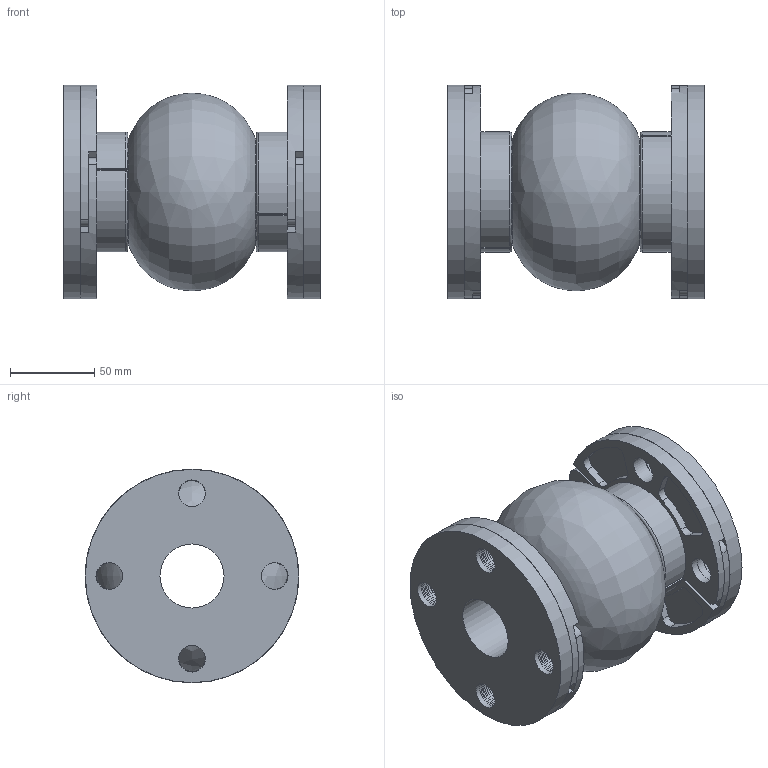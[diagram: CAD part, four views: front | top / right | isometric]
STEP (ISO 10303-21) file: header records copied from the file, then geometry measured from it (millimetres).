
FILE_DESCRIPTION((''),'2;1');
FILE_NAME('N:\StockJoints-ADSK, IGES, STEP, PNG\STEP\451 1.5x6 .stp','2013-05-22T16:36:37',('mquog'),(''),'Autodesk Inventor 2011','Autodesk Inventor 2011','');
FILE_SCHEMA(('AUTOMOTIVE_DESIGN { 1 0 10303 214 1 1 1 1 }'));
Length unit declared in the file: inch
Products named in the file (3): 451 1.5x6 ; Style451 1.5x6; 1.5DI450BUR150
Assembly tree (5 placements, depth 2):
  451 1.5x6 
    Style451 1.5x6
    1.5DI450BUR150  x4
Bounding box: 152.4 x 127 x 127 mm (x, y, z)
Volume: 835957.2 mm3; surface area: 921928.6 mm2
Topology: 16 solids, 16 shells, 330 faces, 790 edges, 514 vertices
Faces by surface type: cylinder 186, plane 94, torus 34, bspline 16
Full cylindrical faces by diameter (mm): 15.875 x68, 38.1 x2, 44.45 x4, 50.8 x8, 52.832 x4, 54.864 x4, 56.896 x4, 58.928 x4, 62.103 x2, 69.85 x2, 123.825 x14, 127 x2
Entity records: 6820 total; most frequent: CARTESIAN_POINT 1903, DIRECTION 1040, ORIENTED_EDGE 668, EDGE_LOOP 524, AXIS2_PLACEMENT_3D 496, EDGE_CURVE 334, FACE_BOUND 305, VERTEX_POINT 304
